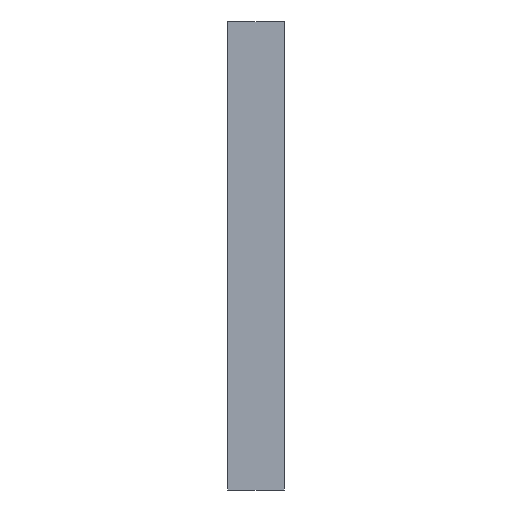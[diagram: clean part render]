
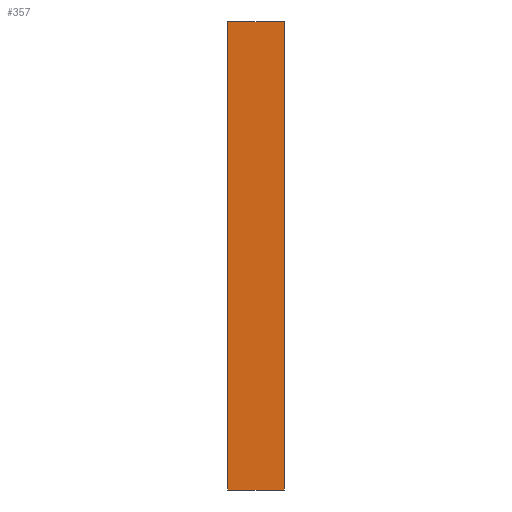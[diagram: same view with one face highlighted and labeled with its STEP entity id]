
A CAD part, front view. The second image highlights one B-rep face of the part: STEP entity #357.
In plain terms, the highlighted planar face has unit normal (0, -1, 0).
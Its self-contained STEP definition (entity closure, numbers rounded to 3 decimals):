
#27=FACE_OUTER_BOUND('',#45,.T.);
#45=EDGE_LOOP('',(#267,#268,#269,#270));
#83=LINE('',#537,#131);
#84=LINE('',#539,#132);
#85=LINE('',#541,#133);
#86=LINE('',#542,#134);
#131=VECTOR('',#443,10.);
#132=VECTOR('',#444,10.);
#133=VECTOR('',#445,10.);
#134=VECTOR('',#446,10.);
#171=VERTEX_POINT('',#535);
#172=VERTEX_POINT('',#536);
#173=VERTEX_POINT('',#538);
#174=VERTEX_POINT('',#540);
#211=EDGE_CURVE('',#171,#172,#83,.T.);
#212=EDGE_CURVE('',#171,#173,#84,.T.);
#213=EDGE_CURVE('',#174,#173,#85,.T.);
#214=EDGE_CURVE('',#172,#174,#86,.T.);
#267=ORIENTED_EDGE('',*,*,#211,.F.);
#268=ORIENTED_EDGE('',*,*,#212,.T.);
#269=ORIENTED_EDGE('',*,*,#213,.F.);
#270=ORIENTED_EDGE('',*,*,#214,.F.);
#339=PLANE('',#389);
#357=ADVANCED_FACE('',(#27),#339,.T.);
#389=AXIS2_PLACEMENT_3D('',#534,#441,#442);
#441=DIRECTION('center_axis',(0.,-1.,0.));
#442=DIRECTION('ref_axis',(0.,0.,-1.));
#443=DIRECTION('',(0.,0.,1.));
#444=DIRECTION('',(1.,0.,0.));
#445=DIRECTION('',(0.,0.,-1.));
#446=DIRECTION('',(1.,0.,0.));
#534=CARTESIAN_POINT('Origin',(0.,0.,12.5));
#535=CARTESIAN_POINT('',(0.,0.,-12.5));
#536=CARTESIAN_POINT('',(0.,0.,12.5));
#537=CARTESIAN_POINT('',(0.,0.,-12.5));
#538=CARTESIAN_POINT('',(3.,0.,-12.5));
#539=CARTESIAN_POINT('',(0.,0.,-12.5));
#540=CARTESIAN_POINT('',(3.,0.,12.5));
#541=CARTESIAN_POINT('',(3.,0.,-12.5));
#542=CARTESIAN_POINT('',(0.,0.,12.5));
